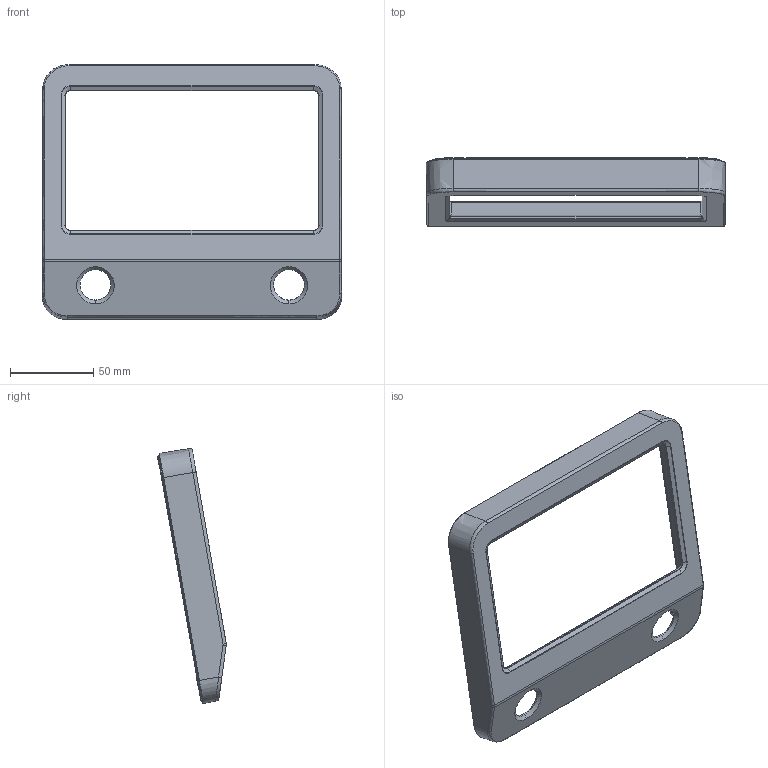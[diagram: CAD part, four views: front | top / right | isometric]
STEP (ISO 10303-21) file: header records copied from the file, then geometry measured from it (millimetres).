
FILE_DESCRIPTION((''),'2;1');
FILE_NAME('TOU-QK','2025-07-12T10:18:59',('Administrator'),(''),'CREO PARAMETRIC BY PTC INC, 2022073','CREO PARAMETRIC BY PTC INC, 2022073','');
FILE_SCHEMA(('CONFIG_CONTROL_DESIGN'));
Length unit declared in the file: millimetre
Products named in the file (1): TOU-QK
Bounding box: 179.55 x 41.17 x 152.79 mm (x, y, z)
Volume: 57047.3 mm3; surface area: 51306.1 mm2
Topology: 1 solids, 1 shells, 211 faces, 543 edges, 342 vertices
Faces by surface type: plane 84, cylinder 59, bspline 22, extrusion 18, cone 16, torus 12
Entity records: 9492 total; most frequent: CARTESIAN_POINT 4423, ORIENTED_EDGE 1086, DIRECTION 981, EDGE_CURVE 543, VERTEX_POINT 342, AXIS2_PLACEMENT_3D 339, VECTOR 303, LINE 285
